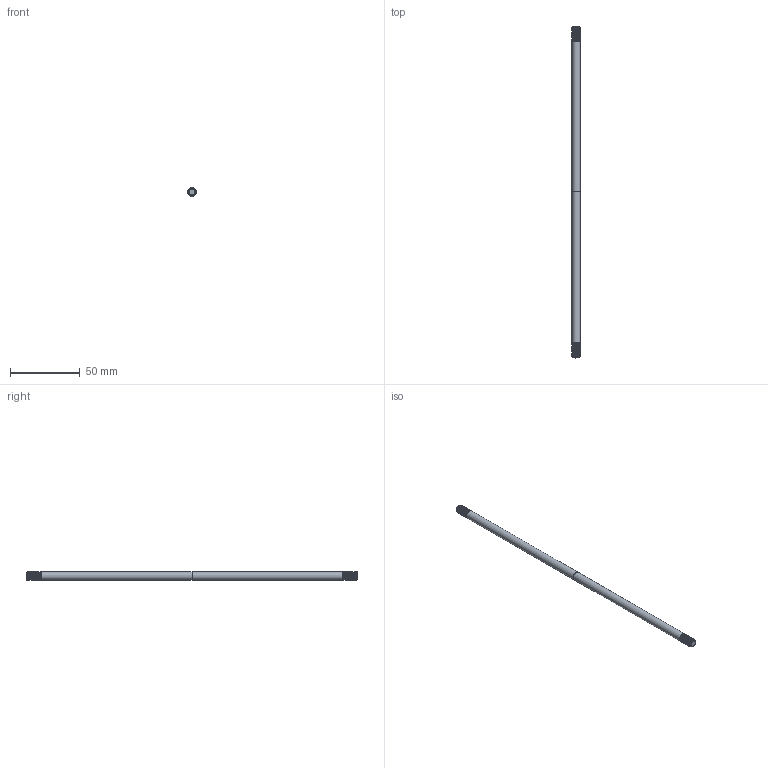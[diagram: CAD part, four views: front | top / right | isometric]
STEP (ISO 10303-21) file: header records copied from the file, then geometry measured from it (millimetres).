
FILE_DESCRIPTION ((), '1');
FILE_NAME ('F:\Energy Science\CAD Projects\Generator Research\Tesla_v1\Fittings\M6 Fittings\M6 Support Rod\M6_Support_Rod.stp', '2015-10-19T01:49:24', ('Unknown'), ('Unknown'), 'HarmonyWare STEP v1.7.11', 'HarmonyWare Translators', '');
FILE_SCHEMA (('CONFIG_CONTROL_DESIGN'));
Length unit declared in the file: millimetre
Products named in the file (1): product-name: product-name: product-name: product-name
Bounding box: 6.03 x 238.07 x 6.04 mm (x, y, z)
Volume: 6677.6 mm3; surface area: 4747.4 mm2
Topology: 1 solids, 1 shells, 38 faces, 95 edges, 61 vertices
Faces by surface type: bspline 38
Entity records: 25883 total; most frequent: CARTESIAN_POINT 25222, ORIENTED_EDGE 190, EDGE_CURVE 95, B_SPLINE_CURVE_WITH_KNOTS 84, VERTEX_POINT 61, EDGE_LOOP 40, FACE_OUTER_BOUND 38, ADVANCED_FACE 38
